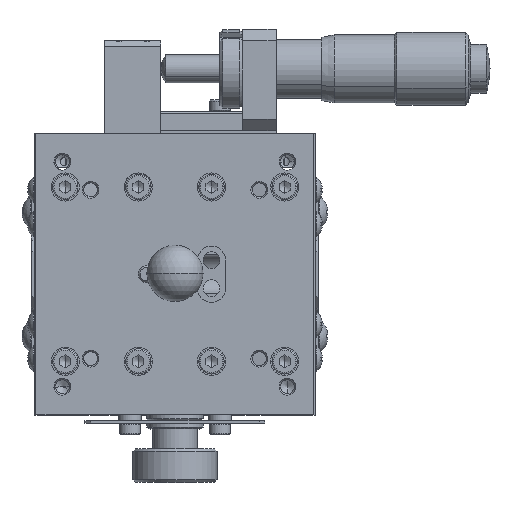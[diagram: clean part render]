
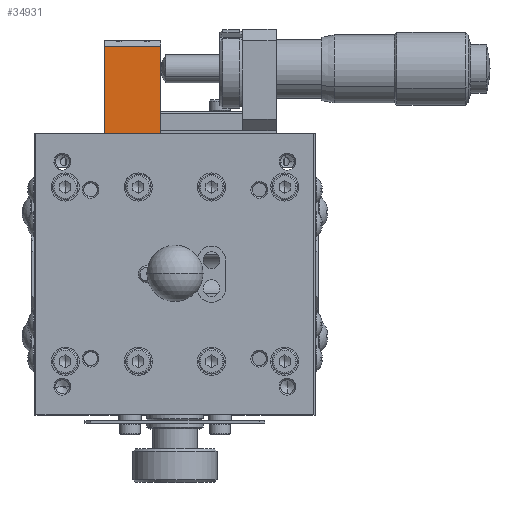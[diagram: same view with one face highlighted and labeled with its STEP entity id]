
A CAD part, top view. The second image highlights one B-rep face of the part: STEP entity #34931.
In plain terms, the highlighted planar face has unit normal (0, 0, 1).
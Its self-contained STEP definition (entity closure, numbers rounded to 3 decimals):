
#7787 = EDGE_CURVE ( 'NONE', #7788, #7790, #17078, .T. ) ;
#7788 = VERTEX_POINT ( 'NONE', #17074 ) ;
#7790 = VERTEX_POINT ( 'NONE', #17136 ) ;
#17074 = CARTESIAN_POINT ( 'NONE',  ( -12.5, 25., -0.5 ) ) ;
#17075 = DIRECTION ( 'NONE',  ( 1., 0., 0. ) ) ;
#17076 = VECTOR ( 'NONE', #17075, 1000. ) ;
#17077 = CARTESIAN_POINT ( 'NONE',  ( -12.5, 25., -0.5 ) ) ;
#17078 = LINE ( 'NONE', #17077, #17076 ) ;
#17136 = CARTESIAN_POINT ( 'NONE',  ( -2.5, 25., -0.5 ) ) ;
#34931 = ADVANCED_FACE ( 'NONE', ( #45990 ), #45989, .T. ) ;
#34932 = EDGE_LOOP ( 'NONE', ( #34933, #34935, #34936, #34997 ) ) ;
#34933 = ORIENTED_EDGE ( 'NONE', *, *, #34934, .F. ) ;
#34934 = EDGE_CURVE ( 'NONE', #35009, #7790, #46047, .T. ) ;
#34935 = ORIENTED_EDGE ( 'NONE', *, *, #35008, .F. ) ;
#34936 = ORIENTED_EDGE ( 'NONE', *, *, #34996, .T. ) ;
#34950 = VERTEX_POINT ( 'NONE', #46024 ) ;
#34996 = EDGE_CURVE ( 'NONE', #34950, #7788, #46086, .T. ) ;
#34997 = ORIENTED_EDGE ( 'NONE', *, *, #7787, .T. ) ;
#35008 = EDGE_CURVE ( 'NONE', #34950, #35009, #46146, .T. ) ;
#35009 = VERTEX_POINT ( 'NONE', #46142 ) ;
#45989 = PLANE ( 'NONE',  #46051 ) ;
#45990 = FACE_OUTER_BOUND ( 'NONE', #34932, .T. ) ;
#46024 = CARTESIAN_POINT ( 'NONE',  ( -12.5, 40.5, -0.5 ) ) ;
#46044 = DIRECTION ( 'NONE',  ( 0., -1., 0. ) ) ;
#46045 = VECTOR ( 'NONE', #46044, 1000. ) ;
#46046 = CARTESIAN_POINT ( 'NONE',  ( -2.5, 40.5, -0.5 ) ) ;
#46047 = LINE ( 'NONE', #46046, #46045 ) ;
#46048 = DIRECTION ( 'NONE',  ( -1., 0., 0. ) ) ;
#46049 = DIRECTION ( 'NONE',  ( 0., 0., 1. ) ) ;
#46050 = CARTESIAN_POINT ( 'NONE',  ( -12.5, 40.5, -0.5 ) ) ;
#46051 = AXIS2_PLACEMENT_3D ( 'NONE', #46050, #46049, #46048 ) ;
#46083 = DIRECTION ( 'NONE',  ( 0., -1., 0. ) ) ;
#46084 = VECTOR ( 'NONE', #46083, 1000. ) ;
#46085 = CARTESIAN_POINT ( 'NONE',  ( -12.5, 40.5, -0.5 ) ) ;
#46086 = LINE ( 'NONE', #46085, #46084 ) ;
#46142 = CARTESIAN_POINT ( 'NONE',  ( -2.5, 40.5, -0.5 ) ) ;
#46143 = DIRECTION ( 'NONE',  ( 1., 0., 0. ) ) ;
#46144 = VECTOR ( 'NONE', #46143, 1000. ) ;
#46145 = CARTESIAN_POINT ( 'NONE',  ( -12.5, 40.5, -0.5 ) ) ;
#46146 = LINE ( 'NONE', #46145, #46144 ) ;
